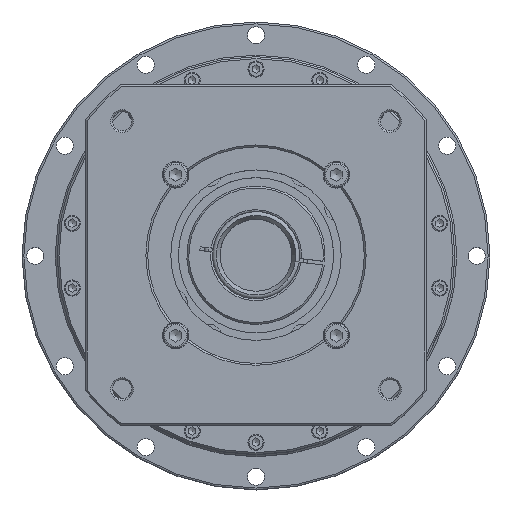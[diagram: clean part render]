
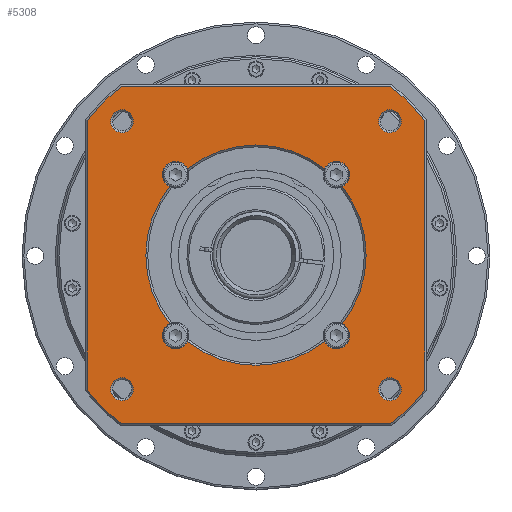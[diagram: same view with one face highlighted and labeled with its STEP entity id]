
A CAD part, top view. The second image highlights one B-rep face of the part: STEP entity #5308.
In plain terms, the highlighted planar face has unit normal (0, 0, 1).
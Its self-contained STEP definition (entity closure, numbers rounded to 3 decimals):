
#5111=CARTESIAN_POINT('',(64.658,70.711,308.15));
#5112=VERTEX_POINT('',#5111);
#5113=CARTESIAN_POINT('',(70.711,70.711,308.15));
#5114=DIRECTION('',(0.0,0.0,1.0));
#5115=DIRECTION('',(1.0,0.0,0.0));
#5116=AXIS2_PLACEMENT_3D('',#5113,#5114,#5115);
#5117=CIRCLE('',#5116,6.053);
#5118=EDGE_CURVE('',#5112,#5112,#5117,.T.);
#5123=CARTESIAN_POINT('',(0.,0.,308.15));
#5124=DIRECTION('',(0.0,0.0,-1.0));
#5125=DIRECTION('',(1.0,0.0,0.0));
#5126=AXIS2_PLACEMENT_3D('',#5123,#5124,#5125);
#5127=PLANE('',#5126);
#5128=CARTESIAN_POINT('',(-71.239,89.,308.15));
#5129=VERTEX_POINT('',#5128);
#5130=CARTESIAN_POINT('',(71.239,89.,308.15));
#5131=VERTEX_POINT('',#5130);
#5132=CARTESIAN_POINT('',(-71.239,89.,308.15));
#5133=DIRECTION('',(1.0,0.0,0.0));
#5134=VECTOR('',#5133,142.478);
#5135=LINE('',#5132,#5134);
#5136=EDGE_CURVE('',#5129,#5131,#5135,.T.);
#5137=ORIENTED_EDGE('',*,*,#5136,.F.);
#5138=CARTESIAN_POINT('',(-89.,71.239,308.15));
#5139=VERTEX_POINT('',#5138);
#5140=CARTESIAN_POINT('',(0.,0.,308.15));
#5141=DIRECTION('',(0.0,0.0,-1.0));
#5142=DIRECTION('',(-1.0,0.0,0.0));
#5143=AXIS2_PLACEMENT_3D('',#5140,#5141,#5142);
#5144=CIRCLE('',#5143,114.0);
#5145=EDGE_CURVE('',#5139,#5129,#5144,.T.);
#5146=ORIENTED_EDGE('',*,*,#5145,.F.);
#5147=CARTESIAN_POINT('',(-89.,-71.239,308.15));
#5148=VERTEX_POINT('',#5147);
#5149=CARTESIAN_POINT('',(-89.,-71.239,308.15));
#5150=DIRECTION('',(0.0,1.0,0.0));
#5151=VECTOR('',#5150,142.478);
#5152=LINE('',#5149,#5151);
#5153=EDGE_CURVE('',#5148,#5139,#5152,.T.);
#5154=ORIENTED_EDGE('',*,*,#5153,.F.);
#5155=CARTESIAN_POINT('',(-71.239,-89.,308.15));
#5156=VERTEX_POINT('',#5155);
#5157=CARTESIAN_POINT('',(0.,0.,308.15));
#5158=DIRECTION('',(0.0,0.0,-1.0));
#5159=DIRECTION('',(-1.0,0.0,0.0));
#5160=AXIS2_PLACEMENT_3D('',#5157,#5158,#5159);
#5161=CIRCLE('',#5160,114.0);
#5162=EDGE_CURVE('',#5156,#5148,#5161,.T.);
#5163=ORIENTED_EDGE('',*,*,#5162,.F.);
#5164=CARTESIAN_POINT('',(71.239,-89.,308.15));
#5165=VERTEX_POINT('',#5164);
#5166=CARTESIAN_POINT('',(71.239,-89.,308.15));
#5167=DIRECTION('',(-1.0,0.0,0.0));
#5168=VECTOR('',#5167,142.478);
#5169=LINE('',#5166,#5168);
#5170=EDGE_CURVE('',#5165,#5156,#5169,.T.);
#5171=ORIENTED_EDGE('',*,*,#5170,.F.);
#5172=CARTESIAN_POINT('',(89.,-71.239,308.15));
#5173=VERTEX_POINT('',#5172);
#5174=CARTESIAN_POINT('',(0.,0.,308.15));
#5175=DIRECTION('',(0.0,0.0,-1.0));
#5176=DIRECTION('',(1.0,0.0,0.0));
#5177=AXIS2_PLACEMENT_3D('',#5174,#5175,#5176);
#5178=CIRCLE('',#5177,114.0);
#5179=EDGE_CURVE('',#5173,#5165,#5178,.T.);
#5180=ORIENTED_EDGE('',*,*,#5179,.F.);
#5181=CARTESIAN_POINT('',(89.0,71.239,308.15));
#5182=VERTEX_POINT('',#5181);
#5183=CARTESIAN_POINT('',(89.0,71.239,308.15));
#5184=DIRECTION('',(0.0,-1.0,0.0));
#5185=VECTOR('',#5184,142.478);
#5186=LINE('',#5183,#5185);
#5187=EDGE_CURVE('',#5182,#5173,#5186,.T.);
#5188=ORIENTED_EDGE('',*,*,#5187,.F.);
#5189=CARTESIAN_POINT('',(0.,0.,308.15));
#5190=DIRECTION('',(0.0,0.0,-1.0));
#5191=DIRECTION('',(1.0,0.0,0.0));
#5192=AXIS2_PLACEMENT_3D('',#5189,#5190,#5191);
#5193=CIRCLE('',#5192,114.0);
#5194=EDGE_CURVE('',#5131,#5182,#5193,.T.);
#5195=ORIENTED_EDGE('',*,*,#5194,.F.);
#5196=EDGE_LOOP('',(#5137,#5146,#5154,#5163,#5171,#5180,#5188,#5195));
#5197=FACE_OUTER_BOUND('',#5196,.T.);
#5198=CARTESIAN_POINT('',(-76.764,70.711,308.15));
#5199=VERTEX_POINT('',#5198);
#5200=CARTESIAN_POINT('',(-70.711,70.711,308.15));
#5201=DIRECTION('',(0.0,0.0,1.0));
#5202=DIRECTION('',(1.0,0.0,0.0));
#5203=AXIS2_PLACEMENT_3D('',#5200,#5201,#5202);
#5204=CIRCLE('',#5203,6.053);
#5205=EDGE_CURVE('',#5199,#5199,#5204,.T.);
#5206=ORIENTED_EDGE('',*,*,#5205,.F.);
#5207=EDGE_LOOP('',(#5206));
#5208=FACE_BOUND('',#5207,.T.);
#5209=CARTESIAN_POINT('',(64.658,-70.711,308.15));
#5210=VERTEX_POINT('',#5209);
#5211=CARTESIAN_POINT('',(70.711,-70.711,308.15));
#5212=DIRECTION('',(0.0,0.0,1.0));
#5213=DIRECTION('',(1.0,0.0,0.0));
#5214=AXIS2_PLACEMENT_3D('',#5211,#5212,#5213);
#5215=CIRCLE('',#5214,6.053);
#5216=EDGE_CURVE('',#5210,#5210,#5215,.T.);
#5217=ORIENTED_EDGE('',*,*,#5216,.F.);
#5218=EDGE_LOOP('',(#5217));
#5219=FACE_BOUND('',#5218,.T.);
#5220=CARTESIAN_POINT('',(-45.542,36.158,308.15));
#5221=VERTEX_POINT('',#5220);
#5222=CARTESIAN_POINT('',(-45.542,-36.158,308.15));
#5223=VERTEX_POINT('',#5222);
#5224=CARTESIAN_POINT('',(0.,0.,308.15));
#5225=DIRECTION('',(0.0,0.0,1.0));
#5226=DIRECTION('',(-1.0,0.0,0.0));
#5227=AXIS2_PLACEMENT_3D('',#5224,#5225,#5226);
#5228=CIRCLE('',#5227,58.15);
#5229=EDGE_CURVE('',#5221,#5223,#5228,.T.);
#5230=ORIENTED_EDGE('',*,*,#5229,.F.);
#5231=CARTESIAN_POINT('',(-36.158,45.542,308.15));
#5232=VERTEX_POINT('',#5231);
#5233=CARTESIAN_POINT('',(-42.426,42.426,308.15));
#5234=DIRECTION('',(0.0,0.0,-1.0));
#5235=DIRECTION('',(-1.0,0.0,0.0));
#5236=AXIS2_PLACEMENT_3D('',#5233,#5234,#5235);
#5237=CIRCLE('',#5236,7.);
#5238=EDGE_CURVE('',#5221,#5232,#5237,.T.);
#5239=ORIENTED_EDGE('',*,*,#5238,.T.);
#5240=CARTESIAN_POINT('',(36.158,45.542,308.15));
#5241=VERTEX_POINT('',#5240);
#5242=CARTESIAN_POINT('',(0.,0.,308.15));
#5243=DIRECTION('',(0.0,0.0,1.0));
#5244=DIRECTION('',(1.0,0.0,0.0));
#5245=AXIS2_PLACEMENT_3D('',#5242,#5243,#5244);
#5246=CIRCLE('',#5245,58.15);
#5247=EDGE_CURVE('',#5241,#5232,#5246,.T.);
#5248=ORIENTED_EDGE('',*,*,#5247,.F.);
#5249=CARTESIAN_POINT('',(45.542,36.158,308.15));
#5250=VERTEX_POINT('',#5249);
#5251=CARTESIAN_POINT('',(42.426,42.426,308.15));
#5252=DIRECTION('',(0.0,0.0,-1.0));
#5253=DIRECTION('',(-1.0,0.0,0.0));
#5254=AXIS2_PLACEMENT_3D('',#5251,#5252,#5253);
#5255=CIRCLE('',#5254,7.);
#5256=EDGE_CURVE('',#5241,#5250,#5255,.T.);
#5257=ORIENTED_EDGE('',*,*,#5256,.T.);
#5258=CARTESIAN_POINT('',(45.542,-36.158,308.15));
#5259=VERTEX_POINT('',#5258);
#5260=CARTESIAN_POINT('',(0.,0.,308.15));
#5261=DIRECTION('',(0.0,0.0,1.0));
#5262=DIRECTION('',(1.0,0.0,0.0));
#5263=AXIS2_PLACEMENT_3D('',#5260,#5261,#5262);
#5264=CIRCLE('',#5263,58.15);
#5265=EDGE_CURVE('',#5259,#5250,#5264,.T.);
#5266=ORIENTED_EDGE('',*,*,#5265,.F.);
#5267=CARTESIAN_POINT('',(36.158,-45.542,308.15));
#5268=VERTEX_POINT('',#5267);
#5269=CARTESIAN_POINT('',(42.426,-42.426,308.15));
#5270=DIRECTION('',(0.0,0.0,-1.0));
#5271=DIRECTION('',(-1.0,0.0,0.0));
#5272=AXIS2_PLACEMENT_3D('',#5269,#5270,#5271);
#5273=CIRCLE('',#5272,7.);
#5274=EDGE_CURVE('',#5259,#5268,#5273,.T.);
#5275=ORIENTED_EDGE('',*,*,#5274,.T.);
#5276=CARTESIAN_POINT('',(-36.158,-45.542,308.15));
#5277=VERTEX_POINT('',#5276);
#5278=CARTESIAN_POINT('',(0.,0.,308.15));
#5279=DIRECTION('',(0.0,0.0,1.0));
#5280=DIRECTION('',(1.0,0.0,0.0));
#5281=AXIS2_PLACEMENT_3D('',#5278,#5279,#5280);
#5282=CIRCLE('',#5281,58.15);
#5283=EDGE_CURVE('',#5277,#5268,#5282,.T.);
#5284=ORIENTED_EDGE('',*,*,#5283,.F.);
#5285=CARTESIAN_POINT('',(-42.426,-42.426,308.15));
#5286=DIRECTION('',(0.0,0.0,-1.0));
#5287=DIRECTION('',(-1.0,0.0,0.0));
#5288=AXIS2_PLACEMENT_3D('',#5285,#5286,#5287);
#5289=CIRCLE('',#5288,7.);
#5290=EDGE_CURVE('',#5277,#5223,#5289,.T.);
#5291=ORIENTED_EDGE('',*,*,#5290,.T.);
#5292=EDGE_LOOP('',(#5230,#5239,#5248,#5257,#5266,#5275,#5284,#5291));
#5293=FACE_BOUND('',#5292,.T.);
#5294=CARTESIAN_POINT('',(-76.764,-70.711,308.15));
#5295=VERTEX_POINT('',#5294);
#5296=CARTESIAN_POINT('',(-70.711,-70.711,308.15));
#5297=DIRECTION('',(0.0,0.0,1.0));
#5298=DIRECTION('',(1.0,0.0,0.0));
#5299=AXIS2_PLACEMENT_3D('',#5296,#5297,#5298);
#5300=CIRCLE('',#5299,6.053);
#5301=EDGE_CURVE('',#5295,#5295,#5300,.T.);
#5302=ORIENTED_EDGE('',*,*,#5301,.F.);
#5303=EDGE_LOOP('',(#5302));
#5304=FACE_BOUND('',#5303,.T.);
#5305=ORIENTED_EDGE('',*,*,#5118,.F.);
#5306=EDGE_LOOP('',(#5305));
#5307=FACE_BOUND('',#5306,.T.);
#5308=ADVANCED_FACE('',(#5197,#5208,#5219,#5293,#5304,#5307),#5127,.F.);
